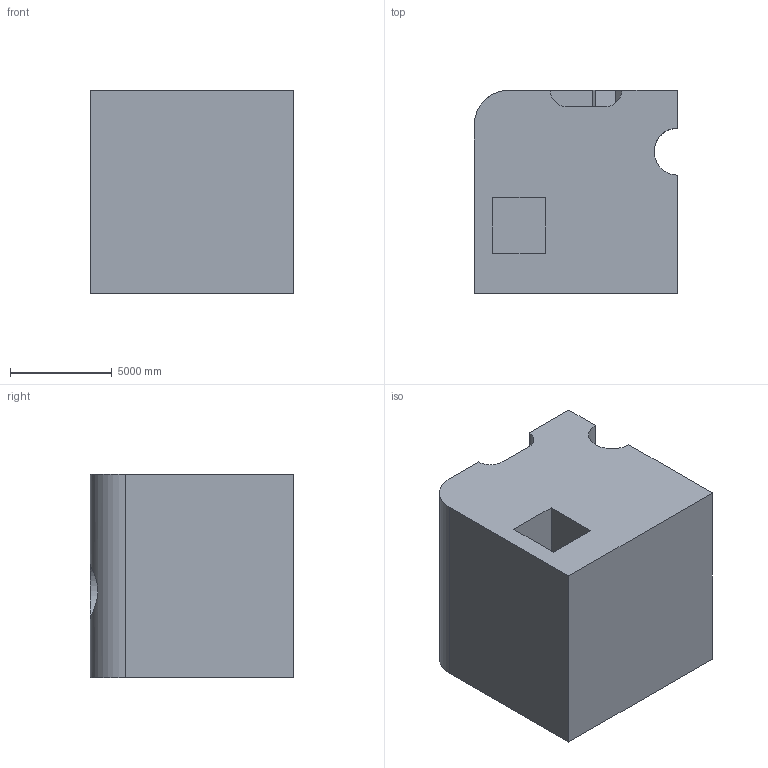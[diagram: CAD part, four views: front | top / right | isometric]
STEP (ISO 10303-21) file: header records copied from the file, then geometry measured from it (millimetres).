
FILE_DESCRIPTION (( 'STEP AP203' ), '1' );
FILE_NAME ('625.STEP', '2022-07-29T12:09:55', ( 'user' ), ( '' ), 'SwSTEP 2.0', 'SolidWorks 2021', '' );
FILE_SCHEMA (( 'CONFIG_CONTROL_DESIGN' ));
Length unit declared in the file: centimetre
Products named in the file (1): 625
Bounding box: 10000 x 10000 x 10000 mm (x, y, z)
Volume: 911113346151 mm3; surface area: 669138020.8 mm2
Topology: 1 solids, 1 shells, 32 faces, 87 edges, 58 vertices
Faces by surface type: plane 25, cylinder 7
Entity records: 1188 total; most frequent: CARTESIAN_POINT 289, ORIENTED_EDGE 174, DIRECTION 165, EDGE_CURVE 87, LINE 71, VECTOR 71, VERTEX_POINT 58, AXIS2_PLACEMENT_3D 47
